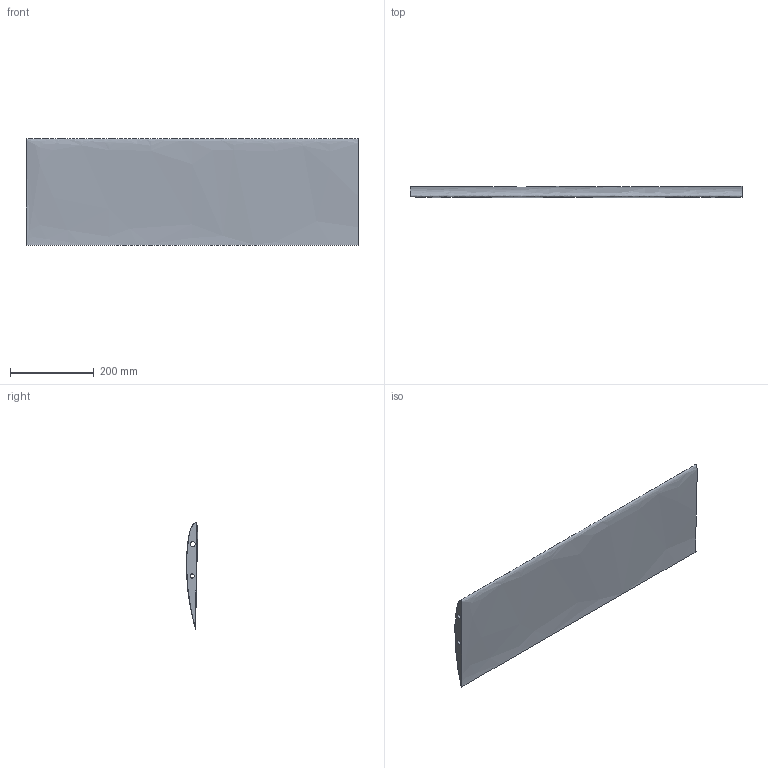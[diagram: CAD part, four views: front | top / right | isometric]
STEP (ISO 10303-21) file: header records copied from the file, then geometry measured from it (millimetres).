
FILE_DESCRIPTION(/* description */ (''),/* implementation_level */ '2;1');
FILE_NAME(/* name */ 'Wing.step',/* time_stamp */ '2023-08-12T23:56:05+03:00',/* author */ (''),/* organization */ (''),/* preprocessor_version */ 'ST-DEVELOPER v20',/* originating_system */ 'Autodesk Translation Framework v12.9.0.99',/* authorisation */ '');
FILE_SCHEMA (('AUTOMOTIVE_DESIGN { 1 0 10303 214 3 1 1 }'));
Length unit declared in the file: millimetre
Products named in the file (1): 2.3-Right Wing
Bounding box: 793.62 x 26.61 x 253.98 mm (x, y, z)
Volume: 3058771.1 mm3; surface area: 473783.5 mm2
Topology: 1 solids, 1 shells, 5 faces, 9 edges, 6 vertices
Faces by surface type: cylinder 2, plane 2, bspline 1
Full cylindrical faces by diameter (mm): 10 x1, 12 x1
Entity records: 1775 total; most frequent: CARTESIAN_POINT 1638, DIRECTION 21, ORIENTED_EDGE 18, EDGE_LOOP 9, EDGE_CURVE 9, AXIS2_PLACEMENT_3D 9, VERTEX_POINT 6, FACE_OUTER_BOUND 5
